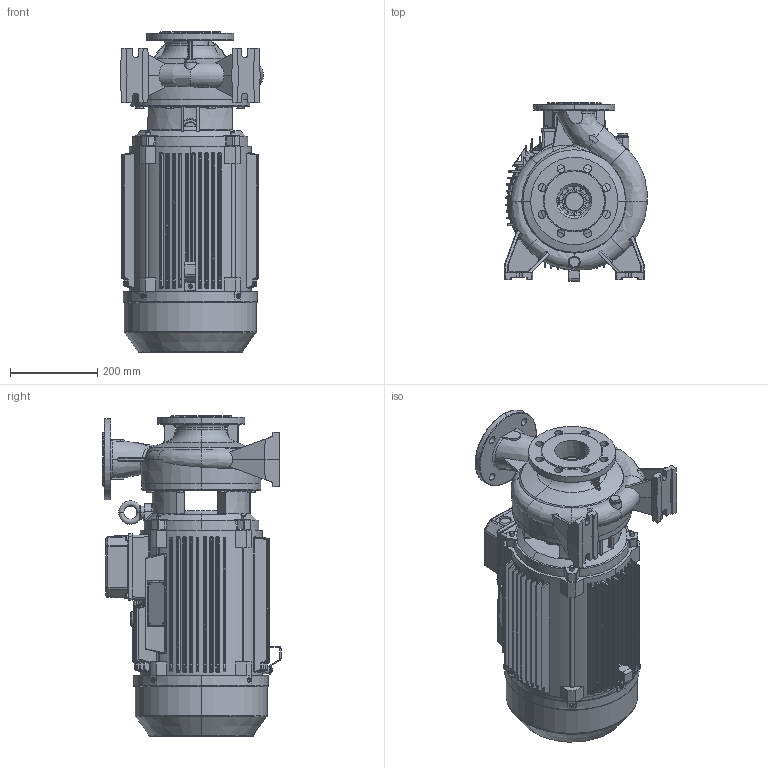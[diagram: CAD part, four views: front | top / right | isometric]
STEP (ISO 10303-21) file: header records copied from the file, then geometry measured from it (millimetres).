
FILE_DESCRIPTION (( 'STEP AP203' ), '1' );
FILE_NAME ('CN 65-200A.STEP', '2020-03-05T15:58:56', ( '' ), ( '' ), 'SwSTEP 2.0', 'SolidWorks 2019', '' );
FILE_SCHEMA (( 'CONFIG_CONTROL_DESIGN' ));
Length unit declared in the file: millimetre
Products named in the file (2): CN 65-200A
Bounding box: 327.8 x 407.92 x 734.5 mm (x, y, z)
Surface area: 1970091 mm2 (no closed solid volume)
Topology: 0 solids, 62 shells, 2720 faces, 8642 edges, 5833 vertices
Faces by surface type: plane 1068, bspline 682, cylinder 584, cone 250, torus 118, sphere 18
Entity records: 149845 total; most frequent: CARTESIAN_POINT 82094, ORIENTED_EDGE 14171, DIRECTION 11839, EDGE_CURVE 8618, VERTEX_POINT 5833, LINE 4233, VECTOR 4233, AXIS2_PLACEMENT_3D 3803
